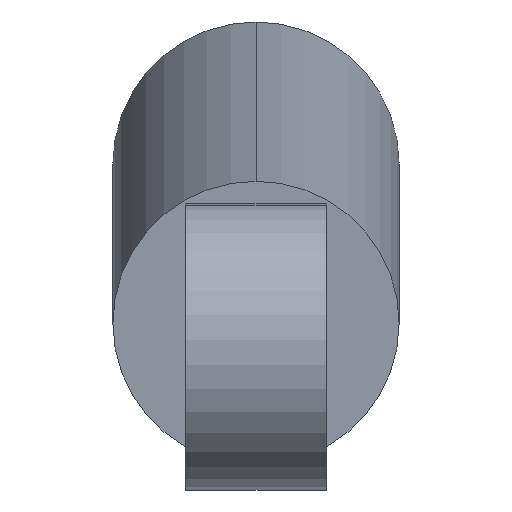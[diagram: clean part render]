
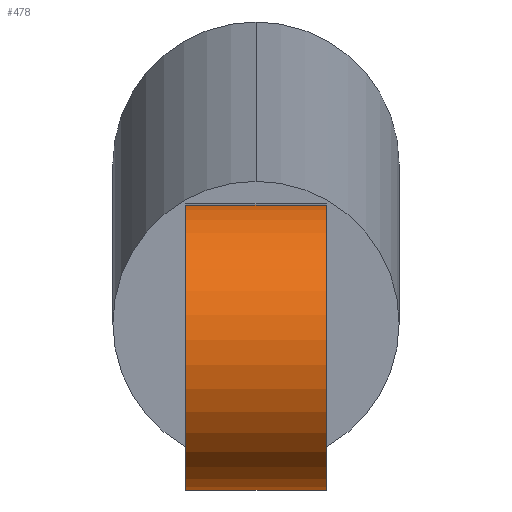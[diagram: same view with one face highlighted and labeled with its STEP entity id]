
A CAD part, top view. The second image highlights one B-rep face of the part: STEP entity #478.
In plain terms, the highlighted cylindrical face has radius 60 mm (diameter 120 mm), a partial arc.
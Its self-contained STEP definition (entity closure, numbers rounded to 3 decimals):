
#214=CARTESIAN_POINT('Vertex',(-145.5,274.533,1463.05)) ;
#217=CARTESIAN_POINT('Axis2P3D Location',(-145.5,215.012,1455.486)) ;
#221=CARTESIAN_POINT('Vertex',(-145.5,155.491,1447.922)) ;
#317=CARTESIAN_POINT('Vertex',(-204.5,155.491,1447.922)) ;
#320=CARTESIAN_POINT('Axis2P3D Location',(-204.5,215.012,1455.486)) ;
#324=CARTESIAN_POINT('Vertex',(-204.5,274.533,1463.05)) ;
#450=CARTESIAN_POINT('Line Origine',(-175.,274.533,1463.05)) ;
#462=CARTESIAN_POINT('Axis2P3D Location',(-175.,215.012,1455.486)) ;
#467=CARTESIAN_POINT('Line Origine',(-175.,155.491,1447.922)) ;
#218=DIRECTION('Axis2P3D Direction',(1.,0.,0.)) ;
#321=DIRECTION('Axis2P3D Direction',(1.,0.,0.)) ;
#451=DIRECTION('Vector Direction',(1.,0.,0.)) ;
#463=DIRECTION('Axis2P3D Direction',(1.,0.,0.)) ;
#464=DIRECTION('Axis2P3D XDirection',(0.,0.992,0.126)) ;
#468=DIRECTION('Vector Direction',(1.,0.,0.)) ;
#219=AXIS2_PLACEMENT_3D('Circle Axis2P3D',#217,#218,$) ;
#322=AXIS2_PLACEMENT_3D('Circle Axis2P3D',#320,#321,$) ;
#465=AXIS2_PLACEMENT_3D('Cylinder Axis2P3D',#462,#463,#464) ;
#473=ORIENTED_EDGE('',*,*,#471,.F.) ;
#474=ORIENTED_EDGE('',*,*,#223,.F.) ;
#475=ORIENTED_EDGE('',*,*,#454,.F.) ;
#476=ORIENTED_EDGE('',*,*,#326,.T.) ;
#452=VECTOR('Line Direction',#451,1.) ;
#469=VECTOR('Line Direction',#468,1.) ;
#478=ADVANCED_FACE('PartBody',(#477),#466,.T.) ;
#220=CIRCLE('generated circle',#219,60.) ;
#323=CIRCLE('generated circle',#322,60.) ;
#466=CYLINDRICAL_SURFACE('generated cylinder',#465,60.) ;
#223=EDGE_CURVE('',#215,#222,#220,.T.) ;
#326=EDGE_CURVE('',#325,#318,#323,.T.) ;
#454=EDGE_CURVE('',#325,#215,#453,.T.) ;
#471=EDGE_CURVE('',#222,#318,#470,.F.) ;
#472=EDGE_LOOP('',(#473,#474,#475,#476)) ;
#477=FACE_OUTER_BOUND('',#472,.T.) ;
#453=LINE('Line',#450,#452) ;
#470=LINE('Line',#467,#469) ;
#215=VERTEX_POINT('',#214) ;
#222=VERTEX_POINT('',#221) ;
#318=VERTEX_POINT('',#317) ;
#325=VERTEX_POINT('',#324) ;
